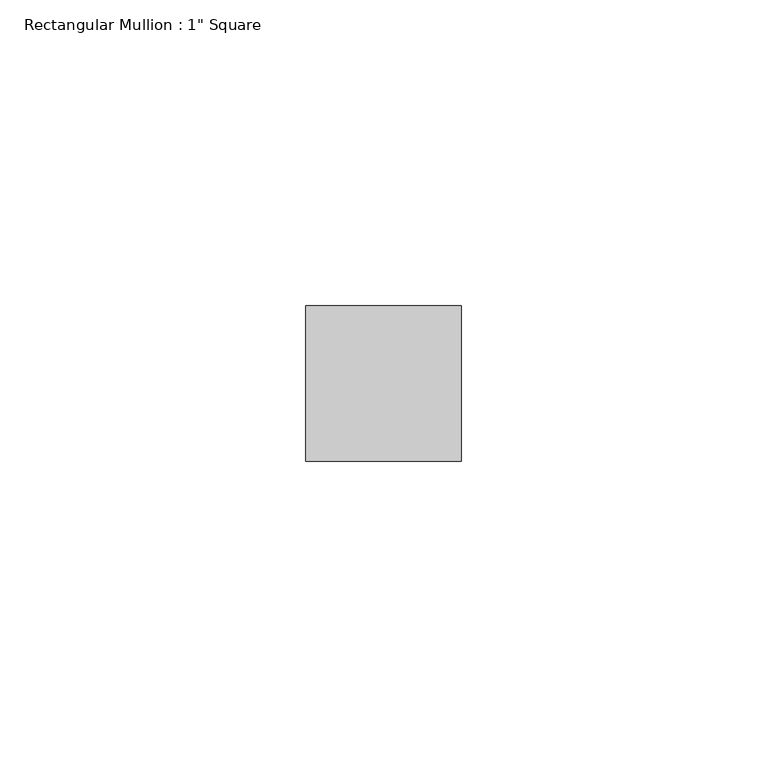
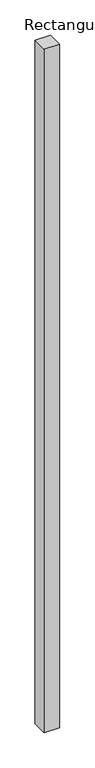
"""IFC4 building model written with IfcOpenShell, lengths in millimetres: member geometry."""

from ifc_helpers import new_model, si_unit, frame, origin, place, context, project, spatial, polyline, outline, extrude, source, transform, mapped, element, save


def member_e916581d(model_context):
    return source(origin(), model_context, "Body", "SweptSolid", [
        extrude(outline(polyline([(0.0, 12.7), (0.0, -12.7), (-25.4, -12.7), (-25.4, 12.7), (0.0, 12.7)])), frame((0.0, 0.0, -1179.9), z_axis=(0.0, 0.0, 1.0), x_axis=(1.0, 0.0, 0.0)), (0.0, 0.0, 1.0), 1179.9),
    ])


if __name__ == "__main__":
    model = new_model("IFC4")
    model_context = context("Model", 3, world=origin())
    ifc_project = project(units=[si_unit("LENGTHUNIT", "METRE", prefix="MILLI")], contexts=[model_context])
    site = spatial("IfcSite", under=ifc_project)
    building = spatial("IfcBuilding", under=site)
    placement = place(None, origin())
    member_shape = member_e916581d(model_context)
    element("IfcMember", 1, ObjectType="Rectangular Mullion : 1\" Square", at=placement, inside=building, context=model_context, shape_type="MappedRepresentation", body=[
        mapped(member_shape, transform((0.0, 0.0, 0.0), x_axis=(1.0, 0.0, 0.0), y_axis=(0.0, 1.0, 0.0), z_axis=(0.0, 0.0, 1.0))),
    ])
    save(model, "model.ifc")
